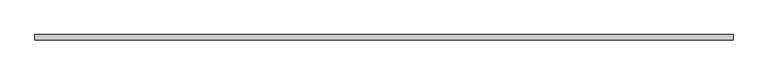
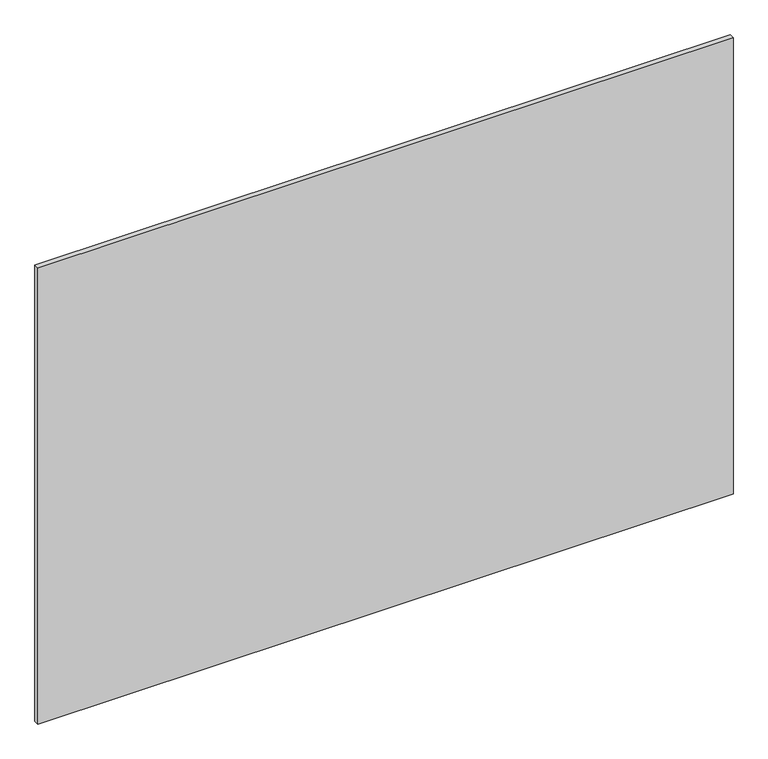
"""IFC4 building model written with IfcOpenShell, lengths in millimetres: plate geometry, 系统嵌板 : 玻璃."""

from ifc_helpers import new_model, si_unit, origin, origin_with_axes, place, context, project, spatial, polyline, outline, extrude, source, transform, mapped, element, save


def plate_45a283f2(model_context):
    return source(origin(), model_context, "Body", "SweptSolid", [
        extrude(outline(polyline([(1635.0, -12.5), (-1635.0, -12.5), (-1635.0, 12.5), (1635.0, 12.5), (1635.0, -12.5)])), origin_with_axes(), (0.0, 0.0, 1.0), 2270.0),
    ])


if __name__ == "__main__":
    model = new_model("IFC4")
    model_context = context("Model", 3, world=origin())
    ifc_project = project(units=[si_unit("LENGTHUNIT", "METRE", prefix="MILLI")], contexts=[model_context])
    site = spatial("IfcSite", under=ifc_project)
    building = spatial("IfcBuilding", under=site)
    placement = place(None, origin())
    plate_shape = plate_45a283f2(model_context)
    element("IfcPlate", 1, ObjectType="系统嵌板 : 玻璃", at=placement, inside=building, context=model_context, shape_type="MappedRepresentation", body=[
        mapped(plate_shape, transform((0.0, 0.0, 0.0), x_axis=(1.0, 0.0, 0.0), y_axis=(0.0, 1.0, 0.0), z_axis=(0.0, 0.0, 1.0))),
    ])
    save(model, "model.ifc")
